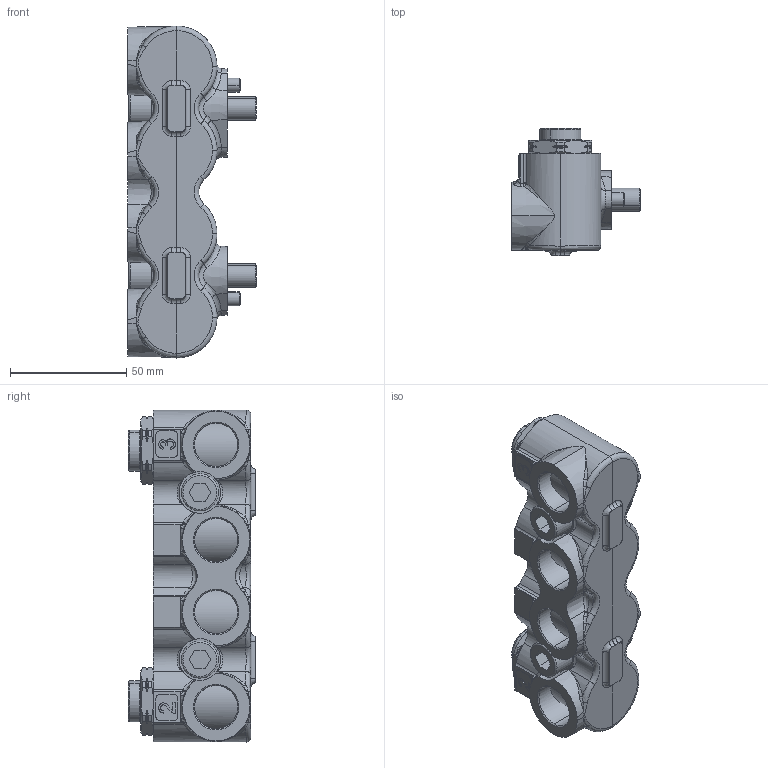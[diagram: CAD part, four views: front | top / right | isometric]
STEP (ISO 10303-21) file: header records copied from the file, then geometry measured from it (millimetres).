
FILE_DESCRIPTION (( 'STEP AP214' ), '1' );
FILE_NAME ('P7319-2B.STEP', '2023-05-25T09:29:40', ( '' ), ( '' ), 'SwSTEP 2.0', 'SolidWorks 2021', '' );
FILE_SCHEMA (( 'AUTOMOTIVE_DESIGN' ));
Length unit declared in the file: millimetre
Products named in the file (1): P7319-2B
Bounding box: 55.5 x 54.8 x 143 mm (x, y, z)
Volume: 201706.7 mm3; surface area: 45279.6 mm2
Topology: 11 solids, 11 shells, 617 faces, 1544 edges, 965 vertices
Faces by surface type: cylinder 168, bspline 167, plane 123, cone 115, torus 44
Entity records: 33399 total; most frequent: CARTESIAN_POINT 13216, ORIENTED_EDGE 3080, DIRECTION 2395, EDGE_CURVE 1540, AXIS2_PLACEMENT_3D 971, VERTEX_POINT 965, EDGE_LOOP 641, UNCERTAINTY_MEASURE_WITH_UNIT 630
